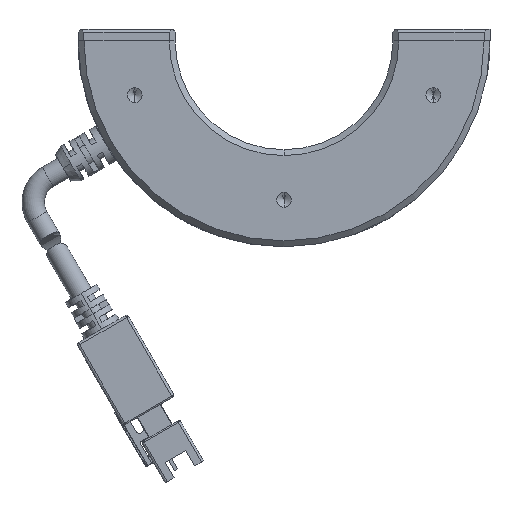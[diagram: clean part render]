
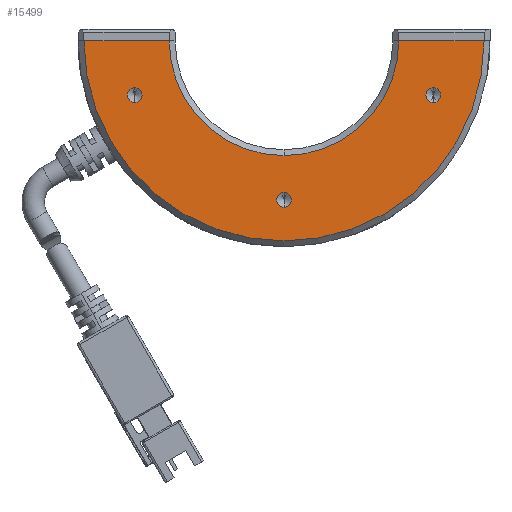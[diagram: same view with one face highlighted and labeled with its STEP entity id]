
A CAD part, front view. The second image highlights one B-rep face of the part: STEP entity #15499.
In plain terms, the highlighted planar face has unit normal (0, -1, 0).
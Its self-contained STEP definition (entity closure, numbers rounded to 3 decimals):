
#166 = EDGE_CURVE ( 'NONE', #9336, #10549, #16100, .T. ) ;
#509 = CIRCLE ( 'NONE', #7673, 1.25 ) ;
#949 = LINE ( 'NONE', #6618, #7966 ) ;
#1146 = DIRECTION ( 'NONE',  ( 0., -1., 0. ) ) ;
#1738 = CARTESIAN_POINT ( 'NONE',  ( -19.5, 0., 0. ) ) ;
#1823 = FACE_OUTER_BOUND ( 'NONE', #3275, .T. ) ;
#2022 = EDGE_LOOP ( 'NONE', ( #9012, #7415 ) ) ;
#2321 = CARTESIAN_POINT ( 'NONE',  ( -35., 0., 0. ) ) ;
#2453 = CIRCLE ( 'NONE', #16604, 1.25 ) ;
#2499 = VERTEX_POINT ( 'NONE', #3252 ) ;
#2699 = AXIS2_PLACEMENT_3D ( 'NONE', #5295, #15048, #6733 ) ;
#3138 = AXIS2_PLACEMENT_3D ( 'NONE', #14504, #6143, #15903 ) ;
#3252 = CARTESIAN_POINT ( 'NONE',  ( 19.5, 0., 0. ) ) ;
#3275 = EDGE_LOOP ( 'NONE', ( #3318, #4204, #17789, #8302, #5099 ) ) ;
#3318 = ORIENTED_EDGE ( 'NONE', *, *, #9494, .F. ) ;
#3389 = EDGE_CURVE ( 'NONE', #5094, #13128, #2453, .T. ) ;
#3429 = CARTESIAN_POINT ( 'NONE',  ( 0., 0., -19.5 ) ) ;
#3520 = CARTESIAN_POINT ( 'NONE',  ( 0., 0., 0. ) ) ;
#3608 = CARTESIAN_POINT ( 'NONE',  ( 25.372, 0., -7.985 ) ) ;
#3817 = VERTEX_POINT ( 'NONE', #3608 ) ;
#4082 = DIRECTION ( 'NONE',  ( 0., -1., 0. ) ) ;
#4204 = ORIENTED_EDGE ( 'NONE', *, *, #15809, .T. ) ;
#4209 = CARTESIAN_POINT ( 'NONE',  ( 0., 0., -25.75 ) ) ;
#4428 = DIRECTION ( 'NONE',  ( 0., -1., 0. ) ) ;
#4586 = DIRECTION ( 'NONE',  ( 0., 1., 0. ) ) ;
#4935 = DIRECTION ( 'NONE',  ( 0., 0., -1. ) ) ;
#5094 = VERTEX_POINT ( 'NONE', #8580 ) ;
#5099 = ORIENTED_EDGE ( 'NONE', *, *, #5791, .T. ) ;
#5126 = EDGE_LOOP ( 'NONE', ( #5167, #11671 ) ) ;
#5167 = ORIENTED_EDGE ( 'NONE', *, *, #8932, .F. ) ;
#5295 = CARTESIAN_POINT ( 'NONE',  ( 25.372, 0., -9.235 ) ) ;
#5302 = CIRCLE ( 'NONE', #17586, 1.25 ) ;
#5791 = EDGE_CURVE ( 'NONE', #13788, #9534, #7433, .T. ) ;
#6024 = FACE_BOUND ( 'NONE', #5126, .T. ) ;
#6143 = DIRECTION ( 'NONE',  ( 0., -1., 0. ) ) ;
#6318 = VECTOR ( 'NONE', #16788, 1000. ) ;
#6333 = EDGE_CURVE ( 'NONE', #13402, #11140, #6530, .T. ) ;
#6364 = AXIS2_PLACEMENT_3D ( 'NONE', #12429, #4082, #13833 ) ;
#6381 = AXIS2_PLACEMENT_3D ( 'NONE', #3520, #13286, #4935 ) ;
#6530 = CIRCLE ( 'NONE', #7142, 19.5 ) ;
#6561 = DIRECTION ( 'NONE',  ( 0., 0., -1. ) ) ;
#6618 = CARTESIAN_POINT ( 'NONE',  ( -35., 0., 0. ) ) ;
#6623 = CARTESIAN_POINT ( 'NONE',  ( -25.372, 0., -7.985 ) ) ;
#6659 = DIRECTION ( 'NONE',  ( 0., -1., 0. ) ) ;
#6733 = DIRECTION ( 'NONE',  ( 0., 0., -1. ) ) ;
#6748 = DIRECTION ( 'NONE',  ( -1., 0., 0. ) ) ;
#7047 = CARTESIAN_POINT ( 'NONE',  ( 35., 0., 0. ) ) ;
#7142 = AXIS2_PLACEMENT_3D ( 'NONE', #12948, #4586, #14359 ) ;
#7181 = CARTESIAN_POINT ( 'NONE',  ( 34., 0., 0. ) ) ;
#7415 = ORIENTED_EDGE ( 'NONE', *, *, #166, .F. ) ;
#7433 = CIRCLE ( 'NONE', #3138, 34. ) ;
#7673 = AXIS2_PLACEMENT_3D ( 'NONE', #9536, #1146, #10905 ) ;
#7883 = PLANE ( 'NONE',  #8599 ) ;
#7966 = VECTOR ( 'NONE', #6748, 1000. ) ;
#8302 = ORIENTED_EDGE ( 'NONE', *, *, #15577, .T. ) ;
#8404 = CARTESIAN_POINT ( 'NONE',  ( -34., 0., 0. ) ) ;
#8580 = CARTESIAN_POINT ( 'NONE',  ( 0., 0., -28.25 ) ) ;
#8599 = AXIS2_PLACEMENT_3D ( 'NONE', #2321, #14882, #6561 ) ;
#8932 = EDGE_CURVE ( 'NONE', #14073, #3817, #14626, .T. ) ;
#9012 = ORIENTED_EDGE ( 'NONE', *, *, #11679, .F. ) ;
#9336 = VERTEX_POINT ( 'NONE', #6623 ) ;
#9494 = EDGE_CURVE ( 'NONE', #2499, #9534, #13732, .T. ) ;
#9513 = DIRECTION ( 'NONE',  ( 0., 0., -1. ) ) ;
#9534 = VERTEX_POINT ( 'NONE', #7181 ) ;
#9536 = CARTESIAN_POINT ( 'NONE',  ( 0., 0., -27. ) ) ;
#9685 = DIRECTION ( 'NONE',  ( 0., -1., 0. ) ) ;
#9757 = ORIENTED_EDGE ( 'NONE', *, *, #15564, .F. ) ;
#10549 = VERTEX_POINT ( 'NONE', #17186 ) ;
#10905 = DIRECTION ( 'NONE',  ( 0., 0., -1. ) ) ;
#11140 = VERTEX_POINT ( 'NONE', #1738 ) ;
#11488 = EDGE_CURVE ( 'NONE', #3817, #14073, #14657, .T. ) ;
#11671 = ORIENTED_EDGE ( 'NONE', *, *, #11488, .F. ) ;
#11679 = EDGE_CURVE ( 'NONE', #10549, #9336, #5302, .T. ) ;
#11879 = CIRCLE ( 'NONE', #6381, 19.5 ) ;
#12429 = CARTESIAN_POINT ( 'NONE',  ( 25.372, 0., -9.235 ) ) ;
#12728 = EDGE_LOOP ( 'NONE', ( #13729, #9757 ) ) ;
#12800 = CARTESIAN_POINT ( 'NONE',  ( -25.372, 0., -9.235 ) ) ;
#12948 = CARTESIAN_POINT ( 'NONE',  ( 0., 0., 0. ) ) ;
#13128 = VERTEX_POINT ( 'NONE', #4209 ) ;
#13286 = DIRECTION ( 'NONE',  ( 0., 1., 0. ) ) ;
#13402 = VERTEX_POINT ( 'NONE', #3429 ) ;
#13729 = ORIENTED_EDGE ( 'NONE', *, *, #3389, .F. ) ;
#13732 = LINE ( 'NONE', #7047, #6318 ) ;
#13788 = VERTEX_POINT ( 'NONE', #8404 ) ;
#13833 = DIRECTION ( 'NONE',  ( 0., 0., -1. ) ) ;
#14073 = VERTEX_POINT ( 'NONE', #16191 ) ;
#14189 = DIRECTION ( 'NONE',  ( 0., 0., -1. ) ) ;
#14359 = DIRECTION ( 'NONE',  ( 0., 0., -1. ) ) ;
#14504 = CARTESIAN_POINT ( 'NONE',  ( 0., 0., 0. ) ) ;
#14626 = CIRCLE ( 'NONE', #2699, 1.25 ) ;
#14657 = CIRCLE ( 'NONE', #6364, 1.25 ) ;
#14882 = DIRECTION ( 'NONE',  ( 0., -1., 0. ) ) ;
#14931 = CARTESIAN_POINT ( 'NONE',  ( -25.372, 0., -9.235 ) ) ;
#14994 = CARTESIAN_POINT ( 'NONE',  ( 0., 0., -27. ) ) ;
#15048 = DIRECTION ( 'NONE',  ( 0., -1., 0. ) ) ;
#15371 = AXIS2_PLACEMENT_3D ( 'NONE', #14931, #9685, #9513 ) ;
#15499 = ADVANCED_FACE ( 'NONE', ( #16703, #16260, #6024, #1823 ), #7883, .T. ) ;
#15564 = EDGE_CURVE ( 'NONE', #13128, #5094, #509, .T. ) ;
#15577 = EDGE_CURVE ( 'NONE', #11140, #13788, #949, .T. ) ;
#15809 = EDGE_CURVE ( 'NONE', #2499, #13402, #11879, .T. ) ;
#15903 = DIRECTION ( 'NONE',  ( 0., 0., -1. ) ) ;
#16100 = CIRCLE ( 'NONE', #15371, 1.25 ) ;
#16191 = CARTESIAN_POINT ( 'NONE',  ( 25.372, 0., -10.485 ) ) ;
#16260 = FACE_BOUND ( 'NONE', #2022, .T. ) ;
#16397 = DIRECTION ( 'NONE',  ( 0., 0., -1. ) ) ;
#16604 = AXIS2_PLACEMENT_3D ( 'NONE', #14994, #6659, #16397 ) ;
#16703 = FACE_BOUND ( 'NONE', #12728, .T. ) ;
#16788 = DIRECTION ( 'NONE',  ( 1., 0., 0. ) ) ;
#17186 = CARTESIAN_POINT ( 'NONE',  ( -25.372, 0., -10.485 ) ) ;
#17586 = AXIS2_PLACEMENT_3D ( 'NONE', #12800, #4428, #14189 ) ;
#17789 = ORIENTED_EDGE ( 'NONE', *, *, #6333, .T. ) ;
